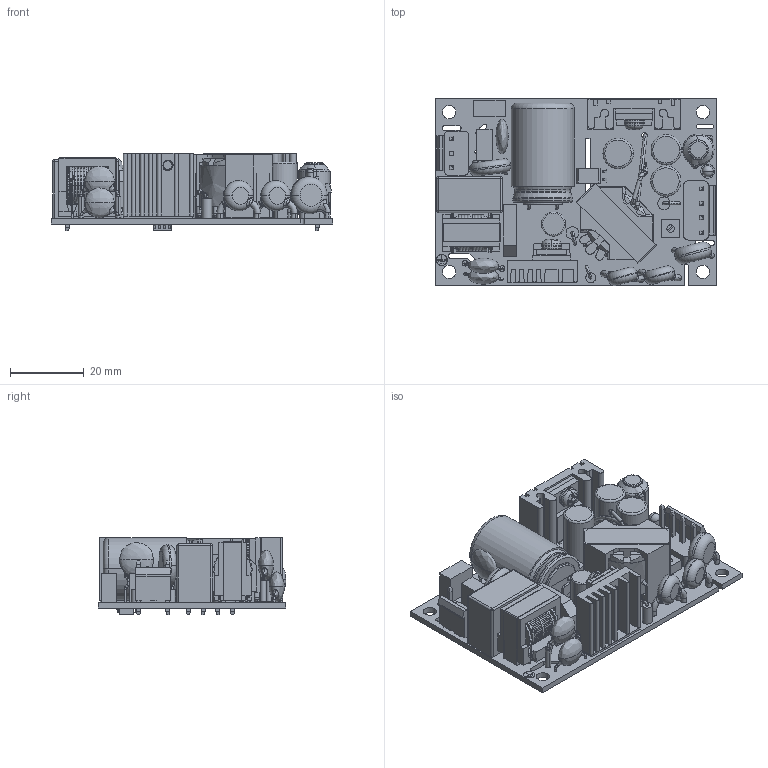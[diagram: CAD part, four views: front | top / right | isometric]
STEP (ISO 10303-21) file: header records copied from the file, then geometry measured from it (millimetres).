
FILE_DESCRIPTION (( 'STEP AP214' ), '1' );
FILE_NAME ('CFM40M²Õ¦X¥ó-1051109.STEP', '2018-01-12T03:37:21', ( 'cincon' ), ( '' ), 'SwSTEP 2.0', 'SolidWorks 2008', '' );
FILE_SCHEMA (( 'AUTOMOTIVE_DESIGN' ));
Length unit declared in the file: millimetre
Products named in the file (19): CFM40M CY3 990210; CFM40M CY5 990210; CFM40M 16.1mm電容套熱縮套管990210; CFM40M VR-1051109_預設; CFM40M變壓器T1 990211; CFM40M變壓器L1 990210; 圓頭十字螺絲_華司 M3x6示意圖; CFM40M鋁擠型和絕緣片示意圖990209; CFM40M UZ1 990210; CFM40M UZ2 990210; CFM40M電晶體10mm-B 990210; CFM40M電晶體10mm-A 990210; CFM40M散熱片17x19x6mm(M3螺紋孔)(M-B019-00-A)G6620680201; CFM201S ´¡2PIN 3PIN´¡®y990209; CFM40M PCBªO; CFM40M組合件-1051109; CFM40M CY2 990210; CFM40M CY1 990210; CFM40M 4PIN 插座990210
Assembly tree (20 placements, depth 2):
  CFM40M組合件-1051109
    CFM201S ´¡2PIN 3PIN´¡®y990209
    CFM40M變壓器T1 990211
    CFM40M 16.1mm電容套熱縮套管990210
    CFM40M CY3 990210  x2
    CFM40M VR-1051109_預設
    CFM40M CY2 990210
    CFM40M UZ1 990210
    CFM40M UZ2 990210
    CFM40M鋁擠型和絕緣片示意圖990209
    CFM40M CY1 990210
    CFM40M PCBªO
    CFM40M變壓器L1 990210
    圓頭十字螺絲_華司 M3x6示意圖  x2
    CFM40M電晶體10mm-B 990210
    CFM40M散熱片17x19x6mm(M3螺紋孔)(M-B019-00-A)G6620680201
    CFM40M電晶體10mm-A 990210
    CFM40M 4PIN 插座990210
    CFM40M CY5 990210
Bounding box: 76.2 x 50.8 x 21 mm (x, y, z)
Volume: 33136.4 mm3; surface area: 29606.3 mm2
Topology: 22 solids, 64 shells, 2345 faces, 6004 edges, 3737 vertices
Faces by surface type: plane 958, cylinder 655, torus 565, bspline 136, cone 20, sphere 11
Entity records: 93766 total; most frequent: CARTESIAN_POINT 27932, DIRECTION 11999, ORIENTED_EDGE 11472, EDGE_CURVE 5736, AXIS2_PLACEMENT_3D 4514, VERTEX_POINT 3581, VECTOR 2971, LINE 2971
